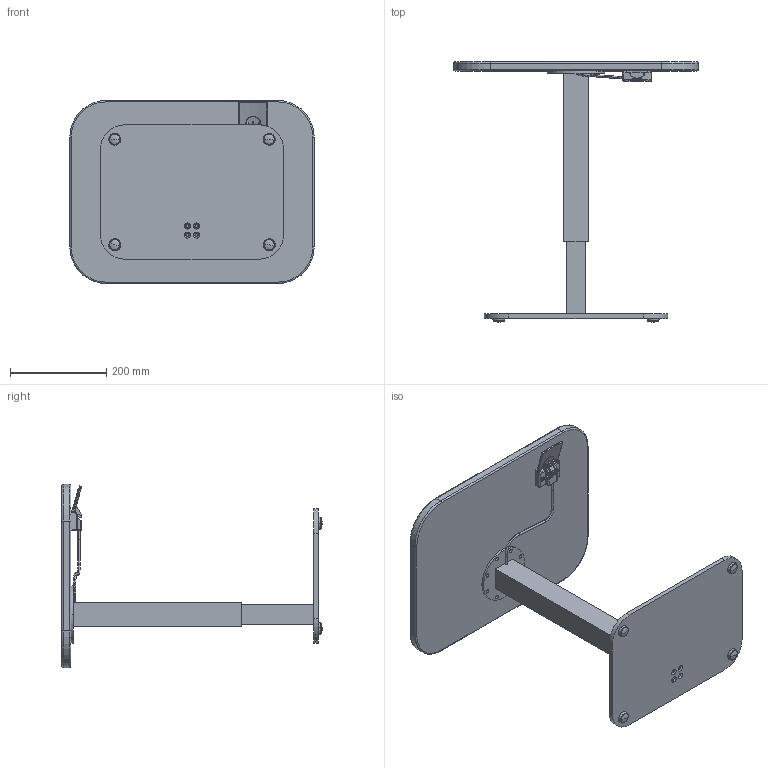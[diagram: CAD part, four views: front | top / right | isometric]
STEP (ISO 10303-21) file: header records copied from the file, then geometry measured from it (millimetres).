
FILE_DESCRIPTION (( 'STEP AP203' ), '1' );
FILE_NAME ('15x20 Rectangle Short Mount-HT.ADJ.-Lowest PositionSTEP.STEP', '2024-10-30T12:31:13', ( '' ), ( '' ), 'SwSTEP 2.0', 'SolidWorks 2021', '' );
FILE_SCHEMA (( 'CONFIG_CONTROL_DESIGN' ));
Length unit declared in the file: inch
Products named in the file (13): Proto laptop STAND; ALG-SS; TT-15x20-Core; Short Paddle Shift Cable_Elongated; TT-15x20-Lam; Paddle Control Base; TT-15x20-EB; 15x20 Rectangle Short Mount-HT.ADJ.-Lowest PositionSTEP; Paddle Control; Paddle; 11X15_RECTANGLE_C_BASEPLATE_SHORT_Center Mount; 11X15_RECTANGLE_C_BASEPLATE_ASSY.SHORT; TT-15x20
Assembly tree (15 placements, depth 3):
  15x20 Rectangle Short Mount-HT.ADJ.-Lowest PositionSTEP
    11X15_RECTANGLE_C_BASEPLATE_ASSY.SHORT
      11X15_RECTANGLE_C_BASEPLATE_SHORT_Center Mount
      ALG-SS  x4
    Proto laptop STAND
    Paddle Control
      Paddle Control Base
      Paddle
    Short Paddle Shift Cable_Elongated
    TT-15x20
      TT-15x20-Core
      TT-15x20-Lam
      TT-15x20-EB
Bounding box: 508 x 541.58 x 381 mm (x, y, z)
Volume: 5745741.7 mm3; surface area: 1242870.5 mm2
Topology: 18 solids, 18 shells, 540 faces, 1240 edges, 725 vertices
Faces by surface type: cylinder 191, plane 159, cone 128, torus 30, bspline 16, sphere 16
Entity records: 13240 total; most frequent: CARTESIAN_POINT 2677, DIRECTION 1997, ORIENTED_EDGE 1830, EDGE_CURVE 915, AXIS2_PLACEMENT_3D 731, VERTEX_POINT 560, VECTOR 535, LINE 535
